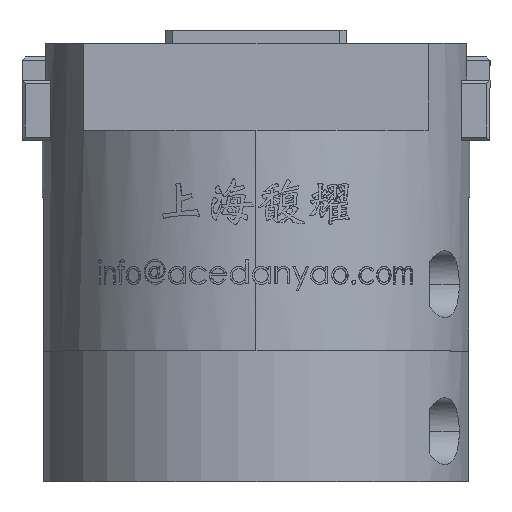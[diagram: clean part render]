
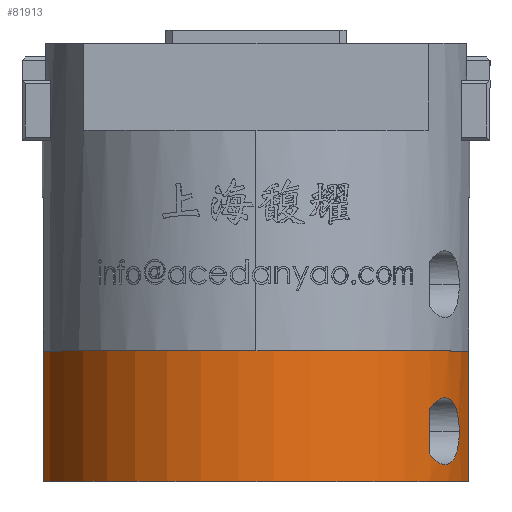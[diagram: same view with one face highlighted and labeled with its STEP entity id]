
A CAD part, top view. The second image highlights one B-rep face of the part: STEP entity #81913.
In plain terms, the highlighted cylindrical face has radius 32 mm (diameter 64 mm), a partial arc.
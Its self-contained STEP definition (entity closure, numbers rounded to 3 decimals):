
#224 = CARTESIAN_POINT ( 'NONE',  ( 30.397, 6.956, 10. ) ) ;
#360 = EDGE_LOOP ( 'NONE', ( #36200, #20269, #72243 ) ) ;
#516 = CARTESIAN_POINT ( 'NONE',  ( 28.082, 2.506, 15.346 ) ) ;
#1922 = VERTEX_POINT ( 'NONE', #57070 ) ;
#1999 = CARTESIAN_POINT ( 'NONE',  ( -31.808, 19.5, 3.5 ) ) ;
#2119 = CARTESIAN_POINT ( 'NONE',  ( 26.239, 11.269, 18.322 ) ) ;
#3573 = CARTESIAN_POINT ( 'NONE',  ( 28.588, 12.485, 14.388 ) ) ;
#3862 = CARTESIAN_POINT ( 'NONE',  ( 30.282, 9.345, 10.345 ) ) ;
#6773 = AXIS2_PLACEMENT_3D ( 'NONE', #78384, #37961, #85160 ) ;
#6819 = CARTESIAN_POINT ( 'NONE',  ( 0., 0., 0. ) ) ;
#6996 = CARTESIAN_POINT ( 'NONE',  ( 30.253, 5.403, 10.429 ) ) ;
#7302 = CARTESIAN_POINT ( 'NONE',  ( 27.689, 2.604, 16.043 ) ) ;
#10360 = CARTESIAN_POINT ( 'NONE',  ( 29.149, 12.174, 13.207 ) ) ;
#10637 = CARTESIAN_POINT ( 'NONE',  ( 30.397, 8.044, 10. ) ) ;
#13087 = DIRECTION ( 'NONE',  ( 0., 0., -1. ) ) ;
#13608 = DIRECTION ( 'NONE',  ( 0., 0., -1. ) ) ;
#13789 = CARTESIAN_POINT ( 'NONE',  ( 29.936, 4.083, 11.311 ) ) ;
#14097 = CARTESIAN_POINT ( 'NONE',  ( 27.017, 2.965, 17.156 ) ) ;
#14548 = ORIENTED_EDGE ( 'NONE', *, *, #78048, .T. ) ;
#15379 = CYLINDRICAL_SURFACE ( 'NONE', #28282, 32. ) ;
#17160 = CARTESIAN_POINT ( 'NONE',  ( 29.445, 11.855, 12.531 ) ) ;
#17499 = FACE_OUTER_BOUND ( 'NONE', #32564, .T. ) ;
#19103 = CARTESIAN_POINT ( 'NONE',  ( 30.397, 7.5, 10. ) ) ;
#20269 = ORIENTED_EDGE ( 'NONE', *, *, #21532, .T. ) ;
#20589 = CARTESIAN_POINT ( 'NONE',  ( 29.452, 3.127, 12.522 ) ) ;
#20886 = CARTESIAN_POINT ( 'NONE',  ( 26.239, 3.731, 18.322 ) ) ;
#21340 = CARTESIAN_POINT ( 'NONE',  ( 30.397, 7.5, 10. ) ) ;
#21419 = AXIS2_PLACEMENT_3D ( 'NONE', #6819, #54038, #13608 ) ;
#21532 = EDGE_CURVE ( 'NONE', #65962, #75481, #55502, .T. ) ;
#21539 = ORIENTED_EDGE ( 'NONE', *, *, #77488, .T. ) ;
#22466 = EDGE_CURVE ( 'NONE', #25705, #70547, #34223, .T. ) ;
#23670 = CARTESIAN_POINT ( 'NONE',  ( 27.024, 12.025, 17.139 ) ) ;
#23777 = LINE ( 'NONE', #26896, #59643 ) ;
#23951 = CARTESIAN_POINT ( 'NONE',  ( 29.706, 11.432, 11.901 ) ) ;
#25705 = VERTEX_POINT ( 'NONE', #26880 ) ;
#26880 = CARTESIAN_POINT ( 'NONE',  ( 31.808, 0., 3.5 ) ) ;
#26896 = CARTESIAN_POINT ( 'NONE',  ( 26., 19.5, 18.655 ) ) ;
#27377 = CARTESIAN_POINT ( 'NONE',  ( 28.931, 2.672, 13.677 ) ) ;
#28282 = AXIS2_PLACEMENT_3D ( 'NONE', #53519, #46725, #13087 ) ;
#30438 = CARTESIAN_POINT ( 'NONE',  ( 27.427, 12.279, 16.487 ) ) ;
#30728 = CARTESIAN_POINT ( 'NONE',  ( 29.929, 10.902, 11.327 ) ) ;
#31952 = CARTESIAN_POINT ( 'NONE',  ( 31.808, 19.5, 3.5 ) ) ;
#32564 = EDGE_LOOP ( 'NONE', ( #86451, #21539, #14548, #67129 ) ) ;
#34153 = CARTESIAN_POINT ( 'NONE',  ( 28.582, 2.531, 14.391 ) ) ;
#34223 = LINE ( 'NONE', #31952, #52185 ) ;
#35631 = VERTEX_POINT ( 'NONE', #82188 ) ;
#36200 = ORIENTED_EDGE ( 'NONE', *, *, #85009, .T. ) ;
#36215 = CARTESIAN_POINT ( 'NONE',  ( 31.808, 19.5, 3.5 ) ) ;
#37187 = CARTESIAN_POINT ( 'NONE',  ( 27.824, 12.44, 15.808 ) ) ;
#37475 = CARTESIAN_POINT ( 'NONE',  ( 30.108, 10.288, 10.841 ) ) ;
#37961 = DIRECTION ( 'NONE',  ( 0., 1., 0. ) ) ;
#38710 = DIRECTION ( 'NONE',  ( 0., 1., 0. ) ) ;
#40913 = CARTESIAN_POINT ( 'NONE',  ( 28.211, 2.495, 15.107 ) ) ;
#42387 = DIRECTION ( 'NONE',  ( 0., -1., 0. ) ) ;
#42809 = CARTESIAN_POINT ( 'NONE',  ( 26.494, 11.562, 17.953 ) ) ;
#43788 = CIRCLE ( 'NONE', #6773, 32. ) ;
#43892 = B_SPLINE_CURVE_WITH_KNOTS ( 'NONE', 3,
 ( #19103, #224, #47414, #6996, #54214, #13789, #61017, #20589, #67768, #27377, #74569, #34153, #81342, #40913, #516, #47706, #7302, #54527, #14097, #61319, #20886, #68061 ),
 .UNSPECIFIED., .F., .F.,
 ( 4, 2, 2, 2, 2, 2, 2, 2, 2, 2, 4 ),
 ( 0., 0.002, 0.003, 0.005, 0.006, 0.007, 0.008, 0.009, 0.01, 0.011, 0.013 ),
 .UNSPECIFIED. ) ;
#43978 = CARTESIAN_POINT ( 'NONE',  ( 28.215, 12.505, 15.1 ) ) ;
#44263 = CARTESIAN_POINT ( 'NONE',  ( 30.246, 9.589, 10.45 ) ) ;
#46725 = DIRECTION ( 'NONE',  ( 0., -1., 0. ) ) ;
#47414 = CARTESIAN_POINT ( 'NONE',  ( 30.369, 6.428, 10.086 ) ) ;
#47706 = CARTESIAN_POINT ( 'NONE',  ( 27.821, 2.561, 15.813 ) ) ;
#50756 = CARTESIAN_POINT ( 'NONE',  ( 28.821, 12.406, 13.914 ) ) ;
#50991 = CARTESIAN_POINT ( 'NONE',  ( 26., 10.912, 18.655 ) ) ;
#51046 = CARTESIAN_POINT ( 'NONE',  ( 30.368, 8.587, 10.09 ) ) ;
#52185 = VECTOR ( 'NONE', #38710, 1000. ) ;
#53519 = CARTESIAN_POINT ( 'NONE',  ( 0., 19.5, 0. ) ) ;
#54038 = DIRECTION ( 'NONE',  ( 0., 1., 0. ) ) ;
#54214 = CARTESIAN_POINT ( 'NONE',  ( 30.169, 4.934, 10.676 ) ) ;
#54527 = CARTESIAN_POINT ( 'NONE',  ( 27.291, 2.781, 16.718 ) ) ;
#55502 = B_SPLINE_CURVE_WITH_KNOTS ( 'NONE', 3,
 ( #57302, #2119, #42809, #64094, #23670, #70842, #30438, #77615, #37187, #84394, #43978, #3573, #50756, #10360, #57590, #17160, #64379, #23951, #71133, #30728, #77908, #37475, #84684, #44263, #3862, #51046, #10637, #57875 ),
 .UNSPECIFIED., .F., .F.,
 ( 4, 2, 2, 2, 2, 2, 2, 2, 2, 2, 2, 2, 2, 4 ),
 ( -0.013, -0.011, -0.01, -0.01, -0.009, -0.008, -0.006, -0.006, -0.005, -0.004, -0.003, -0.002, -0.002, 0. ),
 .UNSPECIFIED. ) ;
#57070 = CARTESIAN_POINT ( 'NONE',  ( 26., 4.088, 18.655 ) ) ;
#57302 = CARTESIAN_POINT ( 'NONE',  ( 26., 10.912, 18.655 ) ) ;
#57480 = VERTEX_POINT ( 'NONE', #72885 ) ;
#57590 = CARTESIAN_POINT ( 'NONE',  ( 29.252, 12.079, 12.976 ) ) ;
#57875 = CARTESIAN_POINT ( 'NONE',  ( 30.397, 7.5, 10. ) ) ;
#59643 = VECTOR ( 'NONE', #74087, 1000. ) ;
#61017 = CARTESIAN_POINT ( 'NONE',  ( 29.795, 3.724, 11.683 ) ) ;
#61319 = CARTESIAN_POINT ( 'NONE',  ( 26.493, 3.44, 17.954 ) ) ;
#64094 = CARTESIAN_POINT ( 'NONE',  ( 26.889, 11.919, 17.35 ) ) ;
#64261 = EDGE_CURVE ( 'NONE', #75481, #1922, #43892, .T. ) ;
#64379 = CARTESIAN_POINT ( 'NONE',  ( 29.536, 11.726, 12.315 ) ) ;
#65962 = VERTEX_POINT ( 'NONE', #50991 ) ;
#66152 = CIRCLE ( 'NONE', #21419, 32. ) ;
#67129 = ORIENTED_EDGE ( 'NONE', *, *, #22466, .T. ) ;
#67768 = CARTESIAN_POINT ( 'NONE',  ( 29.258, 2.903, 12.971 ) ) ;
#68061 = CARTESIAN_POINT ( 'NONE',  ( 26., 4.088, 18.655 ) ) ;
#70403 = VECTOR ( 'NONE', #42387, 1000. ) ;
#70547 = VERTEX_POINT ( 'NONE', #36215 ) ;
#70842 = CARTESIAN_POINT ( 'NONE',  ( 27.293, 12.205, 16.708 ) ) ;
#71133 = CARTESIAN_POINT ( 'NONE',  ( 29.785, 11.265, 11.699 ) ) ;
#72243 = ORIENTED_EDGE ( 'NONE', *, *, #64261, .T. ) ;
#72885 = CARTESIAN_POINT ( 'NONE',  ( -31.808, 0., 3.5 ) ) ;
#74087 = DIRECTION ( 'NONE',  ( 0., 1., 0. ) ) ;
#74569 = CARTESIAN_POINT ( 'NONE',  ( 28.817, 2.613, 13.916 ) ) ;
#75481 = VERTEX_POINT ( 'NONE', #21340 ) ;
#77488 = EDGE_CURVE ( 'NONE', #35631, #57480, #86208, .T. ) ;
#77615 = CARTESIAN_POINT ( 'NONE',  ( 27.692, 12.397, 16.038 ) ) ;
#77908 = CARTESIAN_POINT ( 'NONE',  ( 29.993, 10.707, 11.155 ) ) ;
#78048 = EDGE_CURVE ( 'NONE', #57480, #25705, #66152, .T. ) ;
#78384 = CARTESIAN_POINT ( 'NONE',  ( 0., 19.5, 0. ) ) ;
#81342 = CARTESIAN_POINT ( 'NONE',  ( 28.461, 2.508, 14.63 ) ) ;
#81913 = ADVANCED_FACE ( 'NONE', ( #17499, #87123 ), #15379, .T. ) ;
#82188 = CARTESIAN_POINT ( 'NONE',  ( -31.808, 19.5, 3.5 ) ) ;
#84394 = CARTESIAN_POINT ( 'NONE',  ( 28.085, 12.494, 15.339 ) ) ;
#84579 = EDGE_CURVE ( 'NONE', #35631, #70547, #43788, .T. ) ;
#84684 = CARTESIAN_POINT ( 'NONE',  ( 30.159, 10.064, 10.699 ) ) ;
#85009 = EDGE_CURVE ( 'NONE', #1922, #65962, #23777, .T. ) ;
#85160 = DIRECTION ( 'NONE',  ( 0., 0., -1. ) ) ;
#86208 = LINE ( 'NONE', #1999, #70403 ) ;
#86451 = ORIENTED_EDGE ( 'NONE', *, *, #84579, .F. ) ;
#87123 = FACE_BOUND ( 'NONE', #360, .T. ) ;
